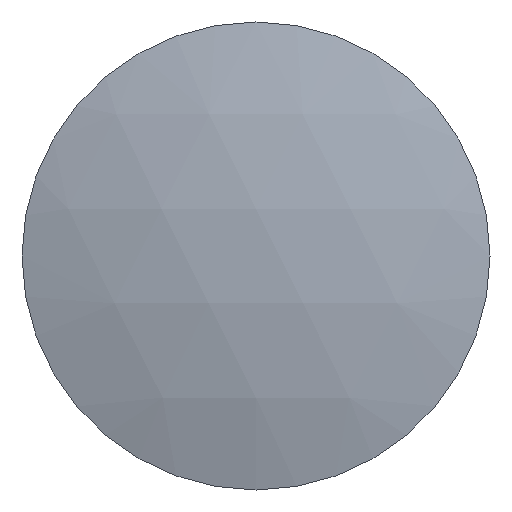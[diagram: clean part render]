
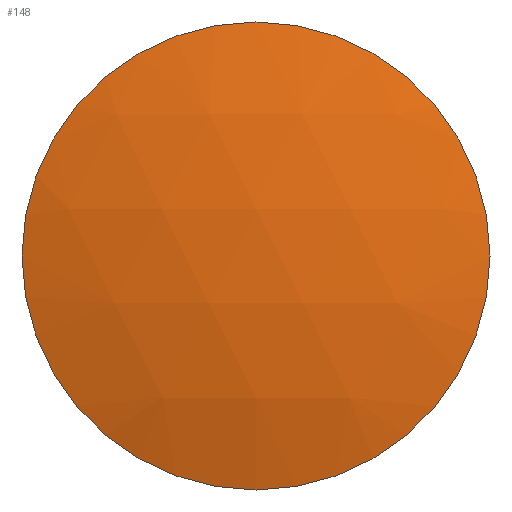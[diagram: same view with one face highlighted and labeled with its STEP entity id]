
A CAD part, front view. The second image highlights one B-rep face of the part: STEP entity #148.
In plain terms, the highlighted spherical face has radius 25 mm.
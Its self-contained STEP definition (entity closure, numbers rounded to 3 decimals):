
#148 = ADVANCED_FACE( '', ( #376 ), #377, .T. );
#220 = VERTEX_POINT( '', #465 );
#224 = VERTEX_POINT( '', #469 );
#268 = EDGE_CURVE( '', #220, #224, #518, .T. );
#274 = EDGE_CURVE( '', #224, #220, #525, .T. );
#376 = FACE_OUTER_BOUND( '', #631, .T. );
#377 = SPHERICAL_SURFACE( '', #632, 25. );
#465 = CARTESIAN_POINT( '', ( 0., -21., -7. ) );
#469 = CARTESIAN_POINT( '', ( 0., -21., 7. ) );
#518 = CIRCLE( '', #812, 7. );
#525 = CIRCLE( '', #820, 7. );
#631 = EDGE_LOOP( '', ( #926, #927 ) );
#632 = AXIS2_PLACEMENT_3D( '', #928, #929, #930 );
#812 = AXIS2_PLACEMENT_3D( '', #1115, #1116, #1117 );
#820 = AXIS2_PLACEMENT_3D( '', #1126, #1127, #1128 );
#926 = ORIENTED_EDGE( '', *, *, #274, .T. );
#927 = ORIENTED_EDGE( '', *, *, #268, .T. );
#928 = CARTESIAN_POINT( '', ( 0., 3., 0. ) );
#929 = DIRECTION( '', ( 0., 0., 1. ) );
#930 = DIRECTION( '', ( 1., 0., 0. ) );
#1115 = CARTESIAN_POINT( '', ( 0., -21., 0. ) );
#1116 = DIRECTION( '', ( 0., -1., 0. ) );
#1117 = DIRECTION( '', ( 0., 0., 1. ) );
#1126 = CARTESIAN_POINT( '', ( 0., -21., 0. ) );
#1127 = DIRECTION( '', ( 0., -1., 0. ) );
#1128 = DIRECTION( '', ( 0., 0., 1. ) );
